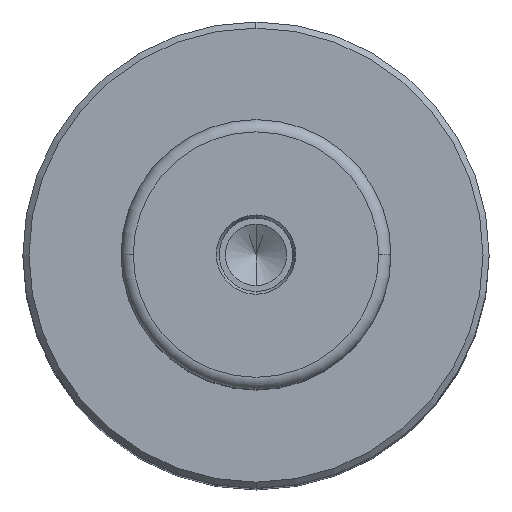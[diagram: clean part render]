
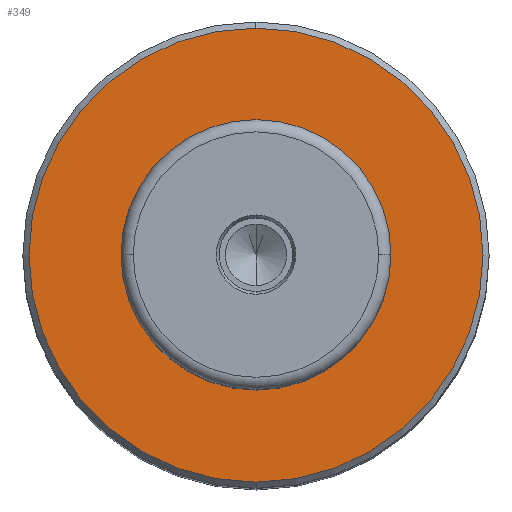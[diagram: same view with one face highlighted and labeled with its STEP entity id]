
A CAD part, top view. The second image highlights one B-rep face of the part: STEP entity #349.
In plain terms, the highlighted planar face has unit normal (0, 0, 1).
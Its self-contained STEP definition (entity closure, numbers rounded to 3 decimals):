
#252 = VERTEX_POINT('',#253);
#253 = CARTESIAN_POINT('',(0.,18.5,79.));
#259 = EDGE_CURVE('',#260,#252,#262,.T.);
#260 = VERTEX_POINT('',#261);
#261 = CARTESIAN_POINT('',(0.,-18.5,79.));
#262 = CIRCLE('',#263,18.5);
#263 = AXIS2_PLACEMENT_3D('',#264,#265,#266);
#264 = CARTESIAN_POINT('',(0.,0.,79.));
#265 = DIRECTION('',(0.,0.,1.));
#266 = DIRECTION('',(0.,1.,0.));
#286 = EDGE_CURVE('',#252,#260,#287,.T.);
#287 = CIRCLE('',#288,18.5);
#288 = AXIS2_PLACEMENT_3D('',#289,#290,#291);
#289 = CARTESIAN_POINT('',(0.,0.,79.));
#290 = DIRECTION('',(0.,0.,1.));
#291 = DIRECTION('',(0.,1.,0.));
#349 = ADVANCED_FACE('',(#350,#370),#374,.T.);
#350 = FACE_BOUND('',#351,.T.);
#351 = EDGE_LOOP('',(#352,#363));
#352 = ORIENTED_EDGE('',*,*,#353,.F.);
#353 = EDGE_CURVE('',#354,#356,#358,.T.);
#354 = VERTEX_POINT('',#355);
#355 = CARTESIAN_POINT('',(0.,11.,79.));
#356 = VERTEX_POINT('',#357);
#357 = CARTESIAN_POINT('',(0.,-11.,79.));
#358 = CIRCLE('',#359,11.);
#359 = AXIS2_PLACEMENT_3D('',#360,#361,#362);
#360 = CARTESIAN_POINT('',(0.,0.,79.));
#361 = DIRECTION('',(0.,0.,1.));
#362 = DIRECTION('',(0.,1.,0.));
#363 = ORIENTED_EDGE('',*,*,#364,.F.);
#364 = EDGE_CURVE('',#356,#354,#365,.T.);
#365 = CIRCLE('',#366,11.);
#366 = AXIS2_PLACEMENT_3D('',#367,#368,#369);
#367 = CARTESIAN_POINT('',(0.,0.,79.));
#368 = DIRECTION('',(0.,0.,1.));
#369 = DIRECTION('',(0.,1.,0.));
#370 = FACE_BOUND('',#371,.T.);
#371 = EDGE_LOOP('',(#372,#373));
#372 = ORIENTED_EDGE('',*,*,#286,.T.);
#373 = ORIENTED_EDGE('',*,*,#259,.T.);
#374 = PLANE('',#375);
#375 = AXIS2_PLACEMENT_3D('',#376,#377,#378);
#376 = CARTESIAN_POINT('',(0.,14.75,79.));
#377 = DIRECTION('',(0.,0.,1.));
#378 = DIRECTION('',(0.,1.,0.));
